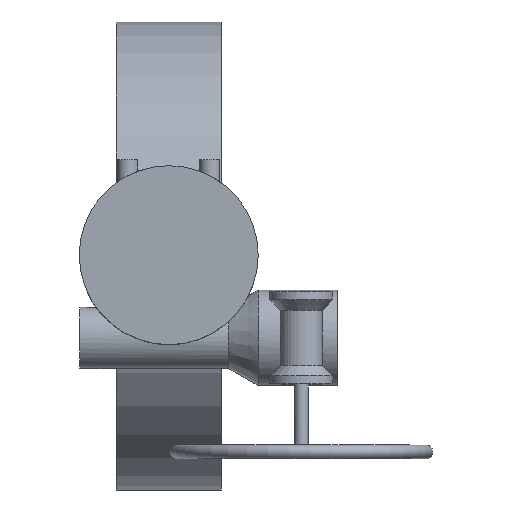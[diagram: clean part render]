
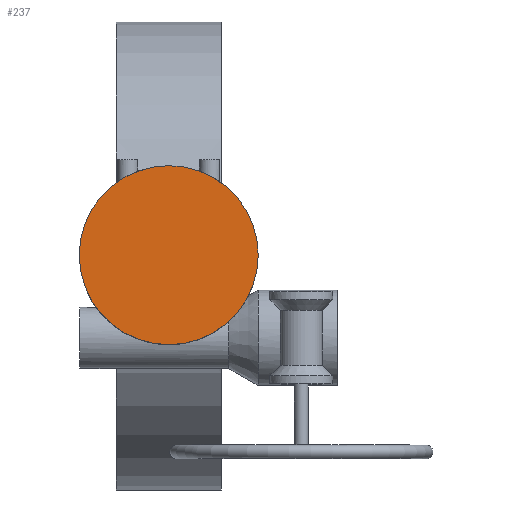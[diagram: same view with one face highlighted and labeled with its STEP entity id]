
A CAD part, top view. The second image highlights one B-rep face of the part: STEP entity #237.
In plain terms, the highlighted planar face has unit normal (0, 0, 1).
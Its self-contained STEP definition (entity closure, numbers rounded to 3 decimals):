
#237=ADVANCED_FACE('',(#7319),#7321,.T.);
#7319=FACE_BOUND('',#7320,.T.);
#7320=EDGE_LOOP('',(#12844));
#7321=PLANE('',#7322);
#7322=AXIS2_PLACEMENT_3D('',#7323,#7324,#7325);
#7323=CARTESIAN_POINT('',(0.,0.,684.));
#7324=DIRECTION('',(0.,0.,1.));
#7325=DIRECTION('',(0.,1.,0.));
#12844=ORIENTED_EDGE('',*,*,#17232,.T.);
#17232=EDGE_CURVE('',#19466,#19466,#19467,.T.);
#19466=VERTEX_POINT('',#23234);
#19467=CIRCLE('',#23235,131.);
#23234=CARTESIAN_POINT('',(0.,131.,684.));
#23235=AXIS2_PLACEMENT_3D('',#23236,#23237,#23238);
#23236=CARTESIAN_POINT('',(0.,0.,684.));
#23237=DIRECTION('',(0.,0.,1.));
#23238=DIRECTION('',(0.,1.,0.));
